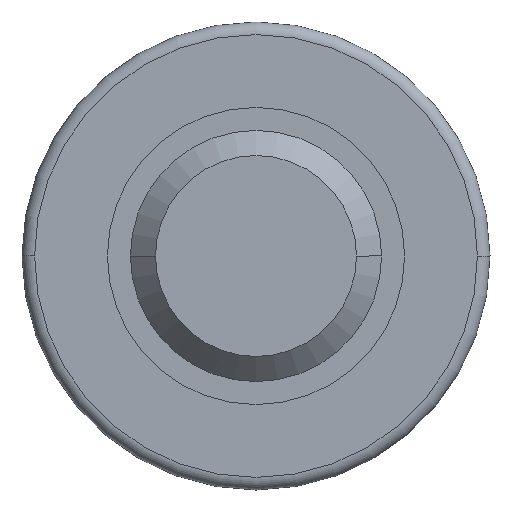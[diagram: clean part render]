
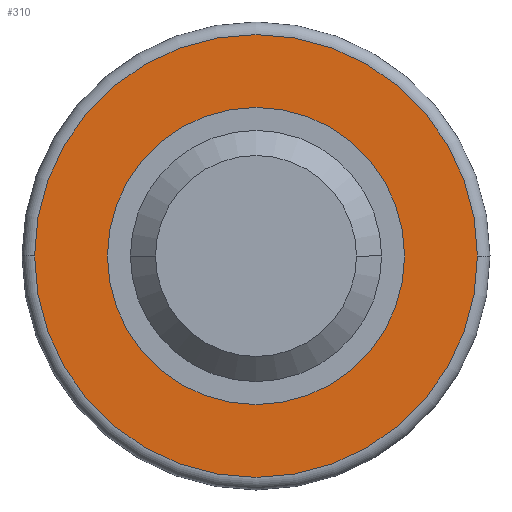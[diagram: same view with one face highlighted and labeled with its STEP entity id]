
A CAD part, left-side view. The second image highlights one B-rep face of the part: STEP entity #310.
In plain terms, the highlighted planar face has unit normal (-1, 0, 0).
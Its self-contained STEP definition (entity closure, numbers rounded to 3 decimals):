
#10 = CIRCLE ( 'NONE', #531, 35.5 ) ;
#12 = AXIS2_PLACEMENT_3D ( 'NONE', #449, #113, #506 ) ;
#16 = ORIENTED_EDGE ( 'NONE', *, *, #602, .T. ) ;
#22 = CARTESIAN_POINT ( 'NONE',  ( 34., 0., 0. ) ) ;
#26 = PLANE ( 'NONE',  #697 ) ;
#57 = CIRCLE ( 'NONE', #190, 52.9 ) ;
#75 = DIRECTION ( 'NONE',  ( 0., 1., 0. ) ) ;
#77 = DIRECTION ( 'NONE',  ( 0., -1., 0. ) ) ;
#104 = EDGE_LOOP ( 'NONE', ( #16, #520 ) ) ;
#113 = DIRECTION ( 'NONE',  ( -1., 0., 0. ) ) ;
#122 = CARTESIAN_POINT ( 'NONE',  ( 34., 52.9, 0. ) ) ;
#130 = EDGE_CURVE ( 'NONE', #627, #208, #523, .T. ) ;
#149 = ORIENTED_EDGE ( 'NONE', *, *, #172, .T. ) ;
#172 = EDGE_CURVE ( 'NONE', #208, #627, #57, .T. ) ;
#190 = AXIS2_PLACEMENT_3D ( 'NONE', #287, #662, #346 ) ;
#208 = VERTEX_POINT ( 'NONE', #122 ) ;
#228 = CARTESIAN_POINT ( 'NONE',  ( 34., -52.9, 0. ) ) ;
#256 = VERTEX_POINT ( 'NONE', #672 ) ;
#281 = CARTESIAN_POINT ( 'NONE',  ( 34., 0., 0. ) ) ;
#283 = EDGE_CURVE ( 'NONE', #256, #626, #10, .T. ) ;
#287 = CARTESIAN_POINT ( 'NONE',  ( 34., 0., 0. ) ) ;
#300 = CARTESIAN_POINT ( 'NONE',  ( 34., 55.9, 0. ) ) ;
#310 = ADVANCED_FACE ( 'NONE', ( #678, #563 ), #26, .T. ) ;
#317 = AXIS2_PLACEMENT_3D ( 'NONE', #281, #659, #343 ) ;
#343 = DIRECTION ( 'NONE',  ( 0., 1., 0. ) ) ;
#346 = DIRECTION ( 'NONE',  ( 0., -1., 0. ) ) ;
#413 = DIRECTION ( 'NONE',  ( 1., 0., 0. ) ) ;
#414 = DIRECTION ( 'NONE',  ( -1., 0., 0. ) ) ;
#449 = CARTESIAN_POINT ( 'NONE',  ( 34., 0., 0. ) ) ;
#482 = CIRCLE ( 'NONE', #317, 35.5 ) ;
#506 = DIRECTION ( 'NONE',  ( 0., -1., 0. ) ) ;
#520 = ORIENTED_EDGE ( 'NONE', *, *, #283, .T. ) ;
#523 = CIRCLE ( 'NONE', #12, 52.9 ) ;
#531 = AXIS2_PLACEMENT_3D ( 'NONE', #22, #413, #75 ) ;
#562 = CARTESIAN_POINT ( 'NONE',  ( 34., 35.5, 0. ) ) ;
#563 = FACE_BOUND ( 'NONE', #104, .T. ) ;
#602 = EDGE_CURVE ( 'NONE', #626, #256, #482, .T. ) ;
#626 = VERTEX_POINT ( 'NONE', #562 ) ;
#627 = VERTEX_POINT ( 'NONE', #228 ) ;
#634 = ORIENTED_EDGE ( 'NONE', *, *, #130, .T. ) ;
#659 = DIRECTION ( 'NONE',  ( 1., 0., 0. ) ) ;
#662 = DIRECTION ( 'NONE',  ( -1., 0., 0. ) ) ;
#672 = CARTESIAN_POINT ( 'NONE',  ( 34., -35.5, 0. ) ) ;
#678 = FACE_OUTER_BOUND ( 'NONE', #685, .T. ) ;
#685 = EDGE_LOOP ( 'NONE', ( #634, #149 ) ) ;
#697 = AXIS2_PLACEMENT_3D ( 'NONE', #300, #414, #77 ) ;
